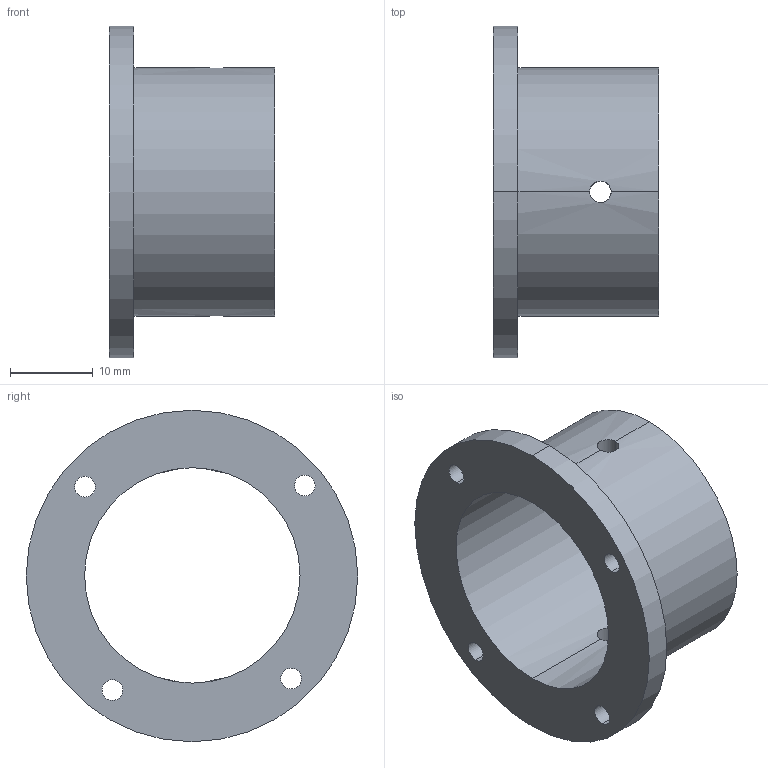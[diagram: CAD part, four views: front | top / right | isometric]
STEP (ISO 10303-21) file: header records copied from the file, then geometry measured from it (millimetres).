
FILE_DESCRIPTION (( 'STEP AP203' ), '1' );
FILE_NAME ('Piece visage2.1.STEP', '2021-03-04T20:32:35', ( '' ), ( '' ), 'SwSTEP 2.0', 'SolidWorks 2018', '' );
FILE_SCHEMA (( 'CONFIG_CONTROL_DESIGN' ));
Length unit declared in the file: millimetre
Products named in the file (1): Piece visage2.1
Bounding box: 20 x 40 x 40 mm (x, y, z)
Volume: 5087.8 mm3; surface area: 5130.7 mm2
Topology: 1 solids, 1 shells, 21 faces, 66 edges, 44 vertices
Faces by surface type: cylinder 18, plane 3
Entity records: 1027 total; most frequent: CARTESIAN_POINT 338, ORIENTED_EDGE 132, DIRECTION 122, EDGE_CURVE 66, AXIS2_PLACEMENT_3D 50, VERTEX_POINT 44, EDGE_LOOP 32, CIRCLE 28
